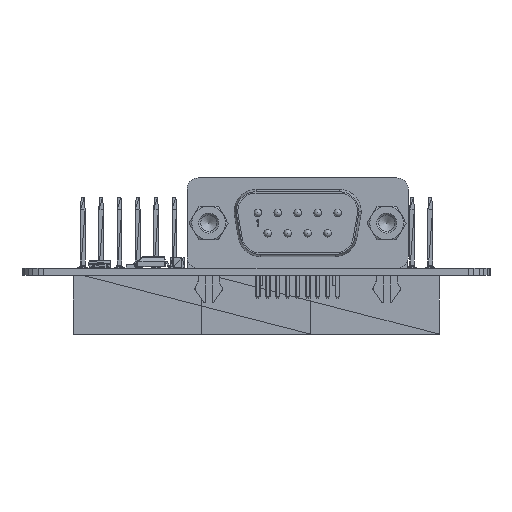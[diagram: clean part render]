
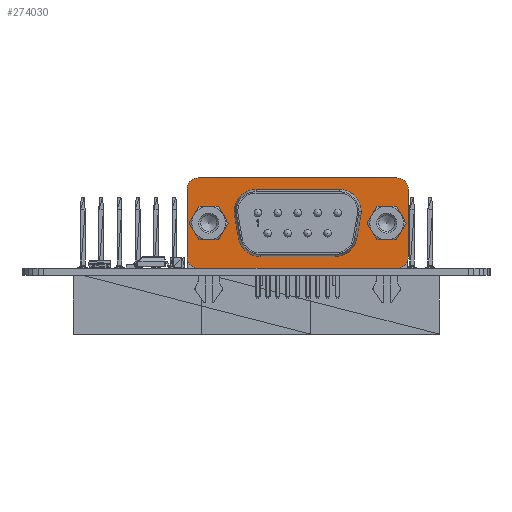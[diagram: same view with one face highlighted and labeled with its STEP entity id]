
A CAD part, front view. The second image highlights one B-rep face of the part: STEP entity #274030.
In plain terms, the highlighted planar face has unit normal (0, -1, 0) as drawn and (0, 1, 0) by its records, which use the part's own axes.
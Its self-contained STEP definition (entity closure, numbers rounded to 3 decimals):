
#1122=FACE_BOUND('',#27262,.T.);
#1123=FACE_BOUND('',#27263,.T.);
#1124=FACE_BOUND('',#27264,.T.);
#1806=CIRCLE('',#299309,3.04);
#1808=CIRCLE('',#299312,1.57);
#1809=CIRCLE('',#299313,1.57);
#1810=CIRCLE('',#299314,1.57);
#1811=CIRCLE('',#299315,1.57);
#1812=CIRCLE('',#299316,3.04);
#1813=CIRCLE('',#299317,3.04);
#1814=CIRCLE('',#299318,3.04);
#2796=FACE_OUTER_BOUND('',#27261,.T.);
#27261=EDGE_LOOP('',(#177752,#177753,#177754,#177755,#177756,#177757,#177758,
#177759));
#27262=EDGE_LOOP('',(#177760,#177761,#177762,#177763,#177764,#177765));
#27263=EDGE_LOOP('',(#177766,#177767,#177768,#177769,#177770,#177771));
#27264=EDGE_LOOP('',(#177772,#177773,#177774,#177775,#177776,#177777,#177778,
#177779));
#51782=LINE('',#416571,#88159);
#51791=LINE('',#416613,#88168);
#51792=LINE('',#416617,#88169);
#51793=LINE('',#416621,#88170);
#51794=LINE('',#416625,#88171);
#51795=LINE('',#416629,#88172);
#51796=LINE('',#416631,#88173);
#51797=LINE('',#416633,#88174);
#51798=LINE('',#416635,#88175);
#51799=LINE('',#416637,#88176);
#51800=LINE('',#416638,#88177);
#51801=LINE('',#416641,#88178);
#51802=LINE('',#416643,#88179);
#51803=LINE('',#416645,#88180);
#51804=LINE('',#416647,#88181);
#51805=LINE('',#416649,#88182);
#51806=LINE('',#416650,#88183);
#51807=LINE('',#416652,#88184);
#51808=LINE('',#416656,#88185);
#51809=LINE('',#416660,#88186);
#88159=VECTOR('',#326495,1.);
#88168=VECTOR('',#326532,1.);
#88169=VECTOR('',#326535,1.);
#88170=VECTOR('',#326538,1.);
#88171=VECTOR('',#326541,1.);
#88172=VECTOR('',#326544,1.);
#88173=VECTOR('',#326545,1.);
#88174=VECTOR('',#326546,1.);
#88175=VECTOR('',#326547,1.);
#88176=VECTOR('',#326548,1.);
#88177=VECTOR('',#326549,1.);
#88178=VECTOR('',#326550,1.);
#88179=VECTOR('',#326551,1.);
#88180=VECTOR('',#326552,1.);
#88181=VECTOR('',#326553,1.);
#88182=VECTOR('',#326554,1.);
#88183=VECTOR('',#326555,1.);
#88184=VECTOR('',#326556,1.);
#88185=VECTOR('',#326559,1.);
#88186=VECTOR('',#326562,1.);
#124833=VERTEX_POINT('',#416567);
#124834=VERTEX_POINT('',#416569);
#124850=VERTEX_POINT('',#416605);
#124852=VERTEX_POINT('',#416611);
#124853=VERTEX_POINT('',#416612);
#124854=VERTEX_POINT('',#416614);
#124855=VERTEX_POINT('',#416616);
#124856=VERTEX_POINT('',#416618);
#124857=VERTEX_POINT('',#416620);
#124858=VERTEX_POINT('',#416622);
#124859=VERTEX_POINT('',#416624);
#124860=VERTEX_POINT('',#416627);
#124861=VERTEX_POINT('',#416628);
#124862=VERTEX_POINT('',#416630);
#124863=VERTEX_POINT('',#416632);
#124864=VERTEX_POINT('',#416634);
#124865=VERTEX_POINT('',#416636);
#124866=VERTEX_POINT('',#416639);
#124867=VERTEX_POINT('',#416640);
#124868=VERTEX_POINT('',#416642);
#124869=VERTEX_POINT('',#416644);
#124870=VERTEX_POINT('',#416646);
#124871=VERTEX_POINT('',#416648);
#124872=VERTEX_POINT('',#416651);
#124873=VERTEX_POINT('',#416653);
#124874=VERTEX_POINT('',#416655);
#124875=VERTEX_POINT('',#416657);
#124876=VERTEX_POINT('',#416659);
#138753=EDGE_CURVE('',#124834,#124833,#51782,.T.);
#138770=EDGE_CURVE('',#124850,#124833,#1806,.T.);
#138773=EDGE_CURVE('',#124852,#124853,#51791,.T.);
#138774=EDGE_CURVE('',#124854,#124852,#1808,.T.);
#138775=EDGE_CURVE('',#124855,#124854,#51792,.T.);
#138776=EDGE_CURVE('',#124856,#124855,#1809,.T.);
#138777=EDGE_CURVE('',#124857,#124856,#51793,.T.);
#138778=EDGE_CURVE('',#124858,#124857,#1810,.T.);
#138779=EDGE_CURVE('',#124859,#124858,#51794,.T.);
#138780=EDGE_CURVE('',#124853,#124859,#1811,.T.);
#138781=EDGE_CURVE('',#124860,#124861,#51795,.T.);
#138782=EDGE_CURVE('',#124862,#124860,#51796,.T.);
#138783=EDGE_CURVE('',#124863,#124862,#51797,.T.);
#138784=EDGE_CURVE('',#124864,#124863,#51798,.T.);
#138785=EDGE_CURVE('',#124865,#124864,#51799,.T.);
#138786=EDGE_CURVE('',#124861,#124865,#51800,.T.);
#138787=EDGE_CURVE('',#124866,#124867,#51801,.T.);
#138788=EDGE_CURVE('',#124868,#124866,#51802,.T.);
#138789=EDGE_CURVE('',#124869,#124868,#51803,.T.);
#138790=EDGE_CURVE('',#124870,#124869,#51804,.T.);
#138791=EDGE_CURVE('',#124871,#124870,#51805,.T.);
#138792=EDGE_CURVE('',#124867,#124871,#51806,.T.);
#138793=EDGE_CURVE('',#124850,#124872,#51807,.T.);
#138794=EDGE_CURVE('',#124873,#124834,#1812,.T.);
#138795=EDGE_CURVE('',#124874,#124873,#51808,.T.);
#138796=EDGE_CURVE('',#124875,#124874,#1813,.T.);
#138797=EDGE_CURVE('',#124876,#124875,#51809,.T.);
#138798=EDGE_CURVE('',#124872,#124876,#1814,.T.);
#177752=ORIENTED_EDGE('',*,*,#138773,.F.);
#177753=ORIENTED_EDGE('',*,*,#138774,.F.);
#177754=ORIENTED_EDGE('',*,*,#138775,.F.);
#177755=ORIENTED_EDGE('',*,*,#138776,.F.);
#177756=ORIENTED_EDGE('',*,*,#138777,.F.);
#177757=ORIENTED_EDGE('',*,*,#138778,.F.);
#177758=ORIENTED_EDGE('',*,*,#138779,.F.);
#177759=ORIENTED_EDGE('',*,*,#138780,.F.);
#177760=ORIENTED_EDGE('',*,*,#138781,.F.);
#177761=ORIENTED_EDGE('',*,*,#138782,.F.);
#177762=ORIENTED_EDGE('',*,*,#138783,.F.);
#177763=ORIENTED_EDGE('',*,*,#138784,.F.);
#177764=ORIENTED_EDGE('',*,*,#138785,.F.);
#177765=ORIENTED_EDGE('',*,*,#138786,.F.);
#177766=ORIENTED_EDGE('',*,*,#138787,.F.);
#177767=ORIENTED_EDGE('',*,*,#138788,.F.);
#177768=ORIENTED_EDGE('',*,*,#138789,.F.);
#177769=ORIENTED_EDGE('',*,*,#138790,.F.);
#177770=ORIENTED_EDGE('',*,*,#138791,.F.);
#177771=ORIENTED_EDGE('',*,*,#138792,.F.);
#177772=ORIENTED_EDGE('',*,*,#138793,.F.);
#177773=ORIENTED_EDGE('',*,*,#138770,.T.);
#177774=ORIENTED_EDGE('',*,*,#138753,.F.);
#177775=ORIENTED_EDGE('',*,*,#138794,.F.);
#177776=ORIENTED_EDGE('',*,*,#138795,.F.);
#177777=ORIENTED_EDGE('',*,*,#138796,.F.);
#177778=ORIENTED_EDGE('',*,*,#138797,.F.);
#177779=ORIENTED_EDGE('',*,*,#138798,.F.);
#249868=PLANE('',#299311);
#274030=ADVANCED_FACE('',(#2796,#1122,#1123,#1124),#249868,.F.);
#299309=AXIS2_PLACEMENT_3D('',#416606,#326525,#326526);
#299311=AXIS2_PLACEMENT_3D('',#416610,#326530,#326531);
#299312=AXIS2_PLACEMENT_3D('',#416615,#326533,#326534);
#299313=AXIS2_PLACEMENT_3D('',#416619,#326536,#326537);
#299314=AXIS2_PLACEMENT_3D('',#416623,#326539,#326540);
#299315=AXIS2_PLACEMENT_3D('',#416626,#326542,#326543);
#299316=AXIS2_PLACEMENT_3D('',#416654,#326557,#326558);
#299317=AXIS2_PLACEMENT_3D('',#416658,#326560,#326561);
#299318=AXIS2_PLACEMENT_3D('',#416661,#326563,#326564);
#326495=DIRECTION('',(-0.174,0.,-0.985));
#326525=DIRECTION('center_axis',(0.,-1.,0.));
#326526=DIRECTION('ref_axis',(0.,0.,1.));
#326530=DIRECTION('center_axis',(0.,-1.,0.));
#326531=DIRECTION('ref_axis',(1.,0.,0.));
#326532=DIRECTION('',(1.,0.,0.));
#326533=DIRECTION('center_axis',(0.,-1.,0.));
#326534=DIRECTION('ref_axis',(0.,0.,-1.));
#326535=DIRECTION('',(0.,0.,-1.));
#326536=DIRECTION('center_axis',(0.,-1.,0.));
#326537=DIRECTION('ref_axis',(0.,0.,-1.));
#326538=DIRECTION('',(-1.,0.,0.));
#326539=DIRECTION('center_axis',(0.,-1.,0.));
#326540=DIRECTION('ref_axis',(0.,0.,-1.));
#326541=DIRECTION('',(0.,0.,1.));
#326542=DIRECTION('center_axis',(0.,-1.,0.));
#326543=DIRECTION('ref_axis',(0.,0.,-1.));
#326544=DIRECTION('',(-0.5,0.,0.866));
#326545=DIRECTION('',(-1.,0.,0.));
#326546=DIRECTION('',(-0.5,0.,-0.866));
#326547=DIRECTION('',(0.5,0.,-0.866));
#326548=DIRECTION('',(1.,0.,0.));
#326549=DIRECTION('',(0.5,0.,0.866));
#326550=DIRECTION('',(-0.5,0.,-0.866));
#326551=DIRECTION('',(0.5,0.,-0.866));
#326552=DIRECTION('',(1.,0.,0.));
#326553=DIRECTION('',(0.5,0.,0.866));
#326554=DIRECTION('',(-0.5,0.,0.866));
#326555=DIRECTION('',(-1.,0.,0.));
#326556=DIRECTION('',(-1.,0.,0.));
#326557=DIRECTION('center_axis',(0.,1.,0.));
#326558=DIRECTION('ref_axis',(0.,0.,1.));
#326559=DIRECTION('',(1.,0.,0.));
#326560=DIRECTION('center_axis',(0.,1.,0.));
#326561=DIRECTION('ref_axis',(0.,0.,1.));
#326562=DIRECTION('',(-0.174,0.,0.985));
#326563=DIRECTION('center_axis',(0.,1.,0.));
#326564=DIRECTION('ref_axis',(0.,0.,1.));
#416567=CARTESIAN_POINT('',(8.204,8.2,4.132));
#416569=CARTESIAN_POINT('',(8.774,8.2,7.362));
#416571=CARTESIAN_POINT('',(8.489,8.2,5.747));
#416605=CARTESIAN_POINT('',(5.21,8.2,1.62));
#416606=CARTESIAN_POINT('Origin',(5.21,8.2,4.66));
#416610=CARTESIAN_POINT('Origin',(-15.36,8.2,0.));
#416611=CARTESIAN_POINT('',(-13.79,8.2,0.));
#416612=CARTESIAN_POINT('',(13.79,8.2,0.));
#416613=CARTESIAN_POINT('',(0.,8.2,0.));
#416614=CARTESIAN_POINT('',(-15.36,8.2,1.57));
#416615=CARTESIAN_POINT('Origin',(-13.79,8.2,1.57));
#416616=CARTESIAN_POINT('',(-15.36,8.2,10.98));
#416617=CARTESIAN_POINT('',(-15.36,8.2,6.275));
#416618=CARTESIAN_POINT('',(-13.79,8.2,12.55));
#416619=CARTESIAN_POINT('Origin',(-13.79,8.2,10.98));
#416620=CARTESIAN_POINT('',(13.79,8.2,12.55));
#416621=CARTESIAN_POINT('',(0.,8.2,12.55));
#416622=CARTESIAN_POINT('',(15.36,8.2,10.98));
#416623=CARTESIAN_POINT('Origin',(13.79,8.2,10.98));
#416624=CARTESIAN_POINT('',(15.36,8.2,1.57));
#416625=CARTESIAN_POINT('',(15.36,8.2,6.275));
#416626=CARTESIAN_POINT('Origin',(13.79,8.2,1.57));
#416627=CARTESIAN_POINT('',(-13.711,8.2,3.935));
#416628=CARTESIAN_POINT('',(-15.062,8.2,6.275));
#416629=CARTESIAN_POINT('',(-13.711,8.2,3.935));
#416630=CARTESIAN_POINT('',(-11.009,8.2,3.935));
#416631=CARTESIAN_POINT('',(0.,8.2,3.935));
#416632=CARTESIAN_POINT('',(-9.658,8.2,6.275));
#416633=CARTESIAN_POINT('',(-9.658,8.2,6.275));
#416634=CARTESIAN_POINT('',(-11.009,8.2,8.615));
#416635=CARTESIAN_POINT('',(-11.009,8.2,8.615));
#416636=CARTESIAN_POINT('',(-13.711,8.2,8.615));
#416637=CARTESIAN_POINT('',(0.,8.2,8.615));
#416638=CARTESIAN_POINT('',(-15.062,8.2,6.275));
#416639=CARTESIAN_POINT('',(15.062,8.2,6.275));
#416640=CARTESIAN_POINT('',(13.711,8.2,3.935));
#416641=CARTESIAN_POINT('',(15.062,8.2,6.275));
#416642=CARTESIAN_POINT('',(13.711,8.2,8.615));
#416643=CARTESIAN_POINT('',(13.711,8.2,8.615));
#416644=CARTESIAN_POINT('',(11.009,8.2,8.615));
#416645=CARTESIAN_POINT('',(0.,8.2,8.615));
#416646=CARTESIAN_POINT('',(9.658,8.2,6.275));
#416647=CARTESIAN_POINT('',(9.658,8.2,6.275));
#416648=CARTESIAN_POINT('',(11.009,8.2,3.935));
#416649=CARTESIAN_POINT('',(11.009,8.2,3.935));
#416650=CARTESIAN_POINT('',(0.,8.2,3.935));
#416651=CARTESIAN_POINT('',(-5.21,8.2,1.62));
#416652=CARTESIAN_POINT('',(0.,8.2,1.62));
#416653=CARTESIAN_POINT('',(5.78,8.2,10.93));
#416654=CARTESIAN_POINT('Origin',(5.78,8.2,7.89));
#416655=CARTESIAN_POINT('',(-5.78,8.2,10.93));
#416656=CARTESIAN_POINT('',(0.,8.2,10.93));
#416657=CARTESIAN_POINT('',(-8.774,8.2,7.362));
#416658=CARTESIAN_POINT('Origin',(-5.78,8.2,7.89));
#416659=CARTESIAN_POINT('',(-8.204,8.2,4.132));
#416660=CARTESIAN_POINT('',(-8.204,8.2,4.132));
#416661=CARTESIAN_POINT('Origin',(-5.21,8.2,4.66));
